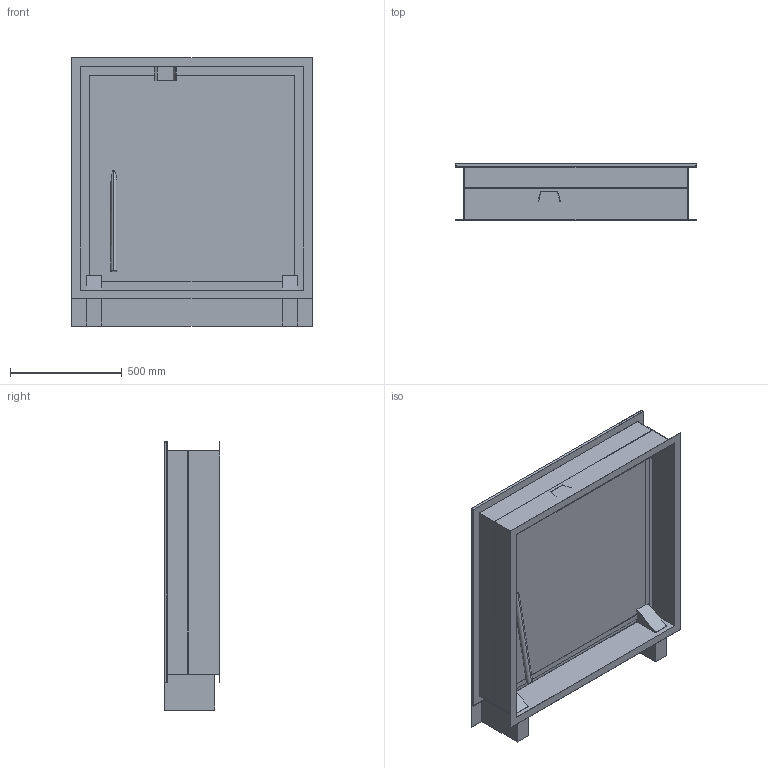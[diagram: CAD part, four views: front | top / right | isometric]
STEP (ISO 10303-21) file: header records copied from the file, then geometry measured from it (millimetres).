
FILE_DESCRIPTION((''),'2;1');
FILE_NAME('51711661','2025-06-25T10:18:21',('hrl'),('HUBER SE'),'CREO PARAMETRIC BY PTC INC, 2022162','CREO PARAMETRIC BY PTC INC, 2022162','');
FILE_SCHEMA(('AUTOMOTIVE_DESIGN { 1 0 10303 214 1 1 1 1 }'));
Length unit declared in the file: millimetre
Products named in the file (1): 51711661
Bounding box: 1078 x 250 x 1200 mm (x, y, z)
Volume: 109884943.7 mm3; surface area: 5867315.1 mm2
Topology: 1 solids, 1 shells, 97 faces, 260 edges, 172 vertices
Faces by surface type: plane 88, cylinder 9
Entity records: 3685 total; most frequent: CARTESIAN_POINT 591, ORIENTED_EDGE 520, DIRECTION 472, EDGE_CURVE 260, VECTOR 238, LINE 238, VERTEX_POINT 172, AXIS2_PLACEMENT_3D 117
